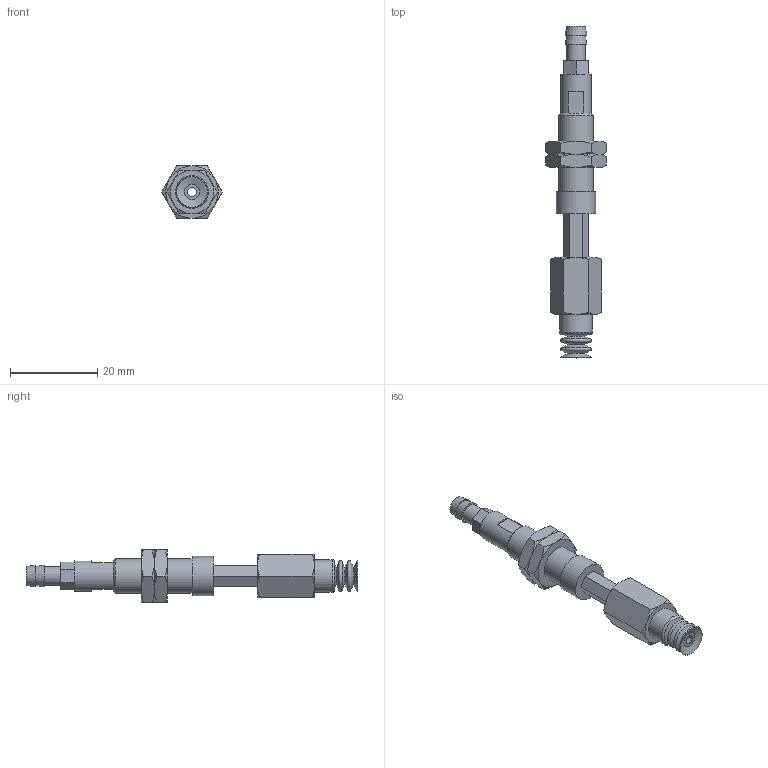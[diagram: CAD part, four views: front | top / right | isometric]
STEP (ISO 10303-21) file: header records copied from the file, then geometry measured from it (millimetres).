
FILE_DESCRIPTION(('STEP AP203'),'1');
FILE_NAME('-T.stp','2025-08-27T01:28:34',(' '),(' '),'Spatial InterOp 3D',' ',' ');
FILE_SCHEMA(('CONFIG_CONTROL_DESIGN'));
Length unit declared in the file: millimetre
Products named in the file (7): BNABPCTH-7-10-※-T; ADAPTER; NAPATH-10A-10--M; Nut napc_h-7-10; NAPCTH-7-10-FBODY; BPCG-7-※; T
Assembly tree (7 placements, depth 2):
  BNABPCTH-7-10-※-T
    ADAPTER
    NAPATH-10A-10--M
    Nut napc_h-7-10  x2
    NAPCTH-7-10-FBODY
    BPCG-7-※
    T
Bounding box: 13.86 x 76 x 12 mm (x, y, z)
Volume: 3623.5 mm3; surface area: 4555.4 mm2
Topology: 7 solids, 7 shells, 148 faces, 309 edges, 186 vertices
Faces by surface type: plane 65, cone 53, cylinder 17, torus 13
Full cylindrical faces by diameter (mm): 2 x3, 3 x1, 4 x2, 4.134 x1, 4.3 x1, 5 x1, 6 x2, 7 x1, 7.188 x2, 7.5 x1, 8 x1, 9 x1
Entity records: 3602 total; most frequent: CARTESIAN_POINT 789, DIRECTION 520, ORIENTED_EDGE 426, AXIS2_PLACEMENT_3D 222, EDGE_CURVE 213, EDGE_LOOP 192, VERTEX_POINT 155, FACE_OUTER_BOUND 154
